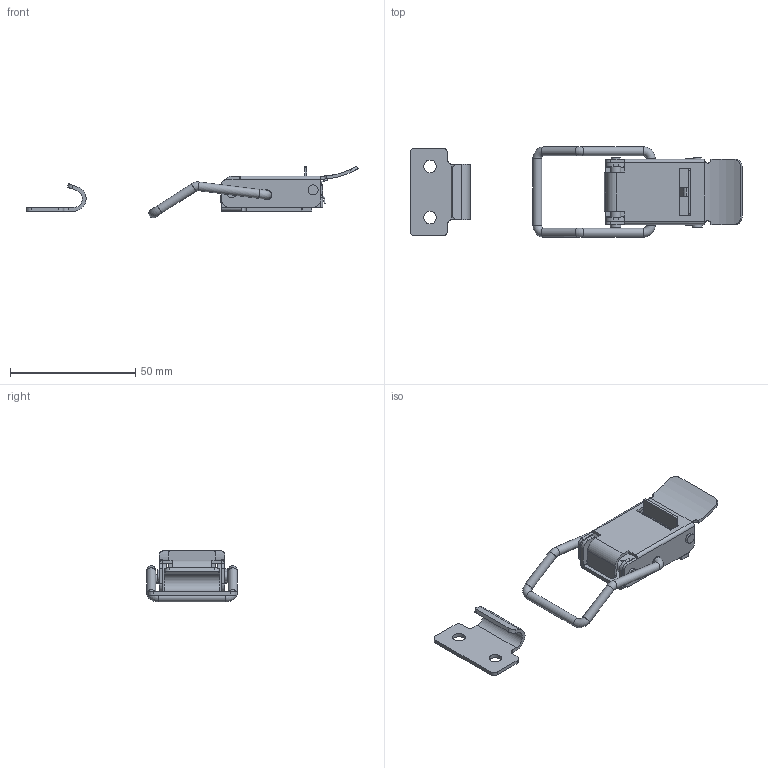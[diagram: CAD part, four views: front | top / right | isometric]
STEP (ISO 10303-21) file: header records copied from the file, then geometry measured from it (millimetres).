
FILE_DESCRIPTION(/* description */ (''),/* implementation_level */ '2;1');
FILE_NAME(/* name */ '\\NAS\db20\C-B7\DR_C-B7.stp',/* time_stamp */ '2017-09-04T14:47:12+09:00',/* author */ ('user'),/* organization */ (''),/* preprocessor_version */ 'ST-DEVELOPER v15.6',/* originating_system */ 'Autodesk Inventor 2015',/* authorisation */ '');
FILE_SCHEMA (('AUTOMOTIVE_DESIGN { 1 0 10303 214 3 1 1 }'));
Length unit declared in the file: millimetre
Products named in the file (7): DR_C-B7-BR; DR_C-B7-H; DR_C-B7-P; DR_C-B7-S; DR_C-B7-SP; DR_C-B7-C; DR_C-B7
Bounding box: 132.52 x 36 x 20.67 mm (x, y, z)
Volume: 7702.7 mm3; surface area: 12386 mm2
Topology: 6 solids, 6 shells, 240 faces, 601 edges, 374 vertices
Faces by surface type: plane 134, cylinder 91, torus 10, bspline 5
Full cylindrical faces by diameter (mm): 0.5 x2, 3 x1, 3.2 x1, 3.5 x8, 4 x8, 4.2 x1, 5 x2
Entity records: 8582 total; most frequent: CARTESIAN_POINT 2672, DIRECTION 1232, ORIENTED_EDGE 1134, EDGE_CURVE 567, AXIS2_PLACEMENT_3D 440, VERTEX_POINT 373, LINE 352, VECTOR 352
